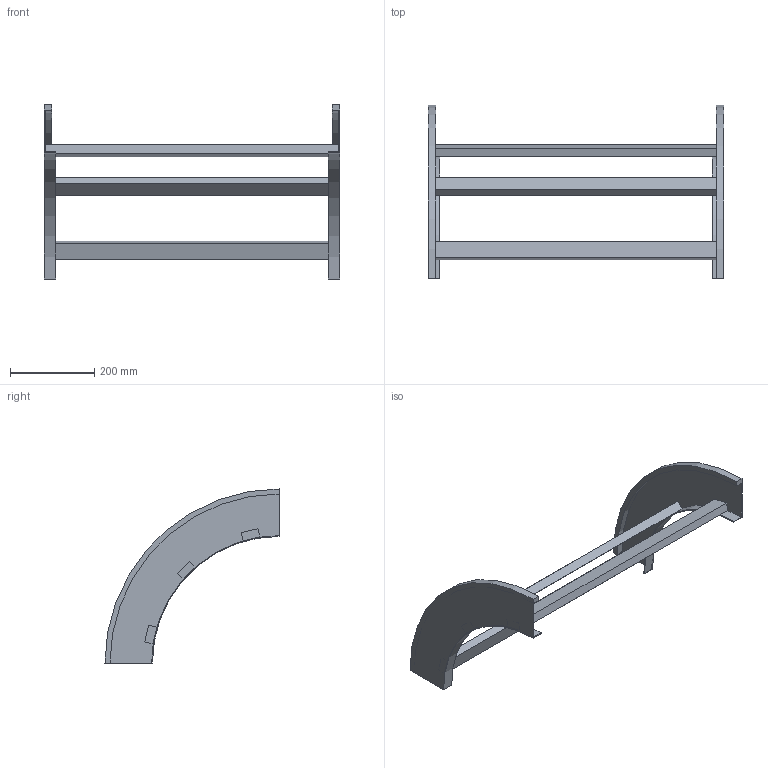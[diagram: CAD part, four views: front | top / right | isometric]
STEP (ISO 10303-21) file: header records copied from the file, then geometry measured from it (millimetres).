
FILE_DESCRIPTION (( 'STEP AP214' ), '1' );
FILE_NAME ('B2_33B3J700.step', '2025-02-21T15:04:21', ( '' ), ( '' ), 'SwSTEP 2.0', 'SolidWorks 2023', '' );
FILE_SCHEMA (( 'AUTOMOTIVE_DESIGN' ));
Length unit declared in the file: millimetre
Products named in the file (3): B2_33B3J700; TRAVERSINO_700; B2_LONGH.DISCESA_90°_H112.5_R300
Assembly tree (5 placements, depth 2):
  B2_33B3J700
    B2_LONGH.DISCESA_90°_H112.5_R300  x2
    TRAVERSINO_700  x3
Bounding box: 700 x 412.5 x 412.5 mm (x, y, z)
Volume: 2235574.3 mm3; surface area: 603817.9 mm2
Topology: 5 solids, 5 shells, 38 faces, 84 edges, 56 vertices
Faces by surface type: plane 30, cylinder 8
Entity records: 560 total; most frequent: DIRECTION 92, CARTESIAN_POINT 84, ORIENTED_EDGE 72, EDGE_CURVE 36, AXIS2_PLACEMENT_3D 32, LINE 28, VECTOR 28, VERTEX_POINT 24
